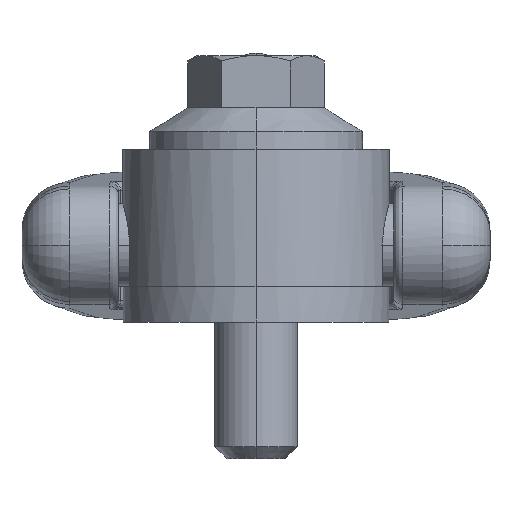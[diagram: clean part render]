
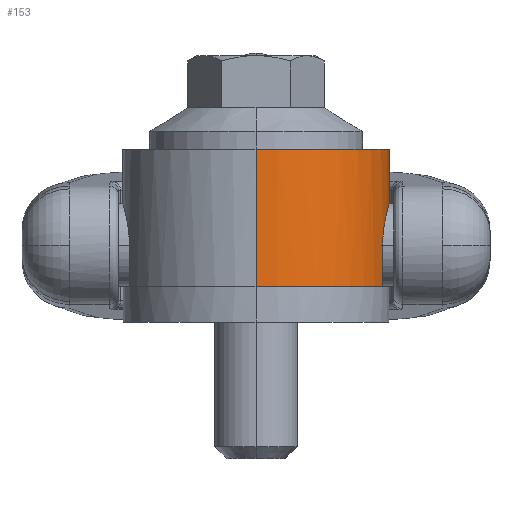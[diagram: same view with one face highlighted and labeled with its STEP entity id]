
A CAD part, top view. The second image highlights one B-rep face of the part: STEP entity #153.
In plain terms, the highlighted cylindrical face has radius 22.5 mm (diameter 45 mm), a partial arc.
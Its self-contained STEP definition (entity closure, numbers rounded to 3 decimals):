
#132 = ORIENTED_EDGE ( 'NONE', *, *, #140, .T. ) ;
#133 = VERTEX_POINT ( 'NONE', #1622 ) ;
#134 = VERTEX_POINT ( 'NONE', #1617 ) ;
#136 = VERTEX_POINT ( 'NONE', #1616 ) ;
#137 = ORIENTED_EDGE ( 'NONE', *, *, #141, .F. ) ;
#138 = VERTEX_POINT ( 'NONE', #1615 ) ;
#139 = EDGE_LOOP ( 'NONE', ( #137, #132, #168, #166, #161, #158, #157, #152 ) ) ;
#140 = EDGE_CURVE ( 'NONE', #134, #169, #1614, .T. ) ;
#141 = EDGE_CURVE ( 'NONE', #134, #138, #1663, .T. ) ;
#151 = VERTEX_POINT ( 'NONE', #1697 ) ;
#152 = ORIENTED_EDGE ( 'NONE', *, *, #963, .F. ) ;
#153 = ADVANCED_FACE ( 'NONE', ( #1696 ), #1695, .T. ) ;
#156 = EDGE_CURVE ( 'NONE', #151, #133, #1690, .T. ) ;
#157 = ORIENTED_EDGE ( 'NONE', *, *, #156, .F. ) ;
#158 = ORIENTED_EDGE ( 'NONE', *, *, #159, .T. ) ;
#159 = EDGE_CURVE ( 'NONE', #163, #133, #1685, .T. ) ;
#160 = EDGE_CURVE ( 'NONE', #136, #163, #1680, .T. ) ;
#161 = ORIENTED_EDGE ( 'NONE', *, *, #160, .T. ) ;
#163 = VERTEX_POINT ( 'NONE', #1702 ) ;
#165 = EDGE_CURVE ( 'NONE', #5817, #136, #1759, .T. ) ;
#166 = ORIENTED_EDGE ( 'NONE', *, *, #165, .T. ) ;
#167 = EDGE_CURVE ( 'NONE', #5817, #169, #1754, .T. ) ;
#168 = ORIENTED_EDGE ( 'NONE', *, *, #167, .F. ) ;
#169 = VERTEX_POINT ( 'NONE', #1748 ) ;
#963 = EDGE_CURVE ( 'NONE', #138, #151, #3284, .T. ) ;
#1612 = VECTOR ( 'NONE', #1664, 1000. ) ;
#1613 = CARTESIAN_POINT ( 'NONE',  ( 0., 45., 22.5 ) ) ;
#1614 = LINE ( 'NONE', #1613, #1612 ) ;
#1615 = CARTESIAN_POINT ( 'NONE',  ( 0., 29.2, -22.5 ) ) ;
#1616 = CARTESIAN_POINT ( 'NONE',  ( 21.383, 13., 7. ) ) ;
#1617 = CARTESIAN_POINT ( 'NONE',  ( 0., 29.2, 22.5 ) ) ;
#1622 = CARTESIAN_POINT ( 'NONE',  ( 21.383, 6., -7. ) ) ;
#1659 = DIRECTION ( 'NONE',  ( 0., 0., 1. ) ) ;
#1660 = DIRECTION ( 'NONE',  ( 0., 1., 0. ) ) ;
#1661 = CARTESIAN_POINT ( 'NONE',  ( 0., 29.2, 0. ) ) ;
#1662 = AXIS2_PLACEMENT_3D ( 'NONE', #1661, #1660, #1659 ) ;
#1663 = CIRCLE ( 'NONE', #1662, 22.5 ) ;
#1664 = DIRECTION ( 'NONE',  ( 0., -1., 0. ) ) ;
#1665 = CARTESIAN_POINT ( 'NONE',  ( 21.876, 17.621, 5.263 ) ) ;
#1666 = CARTESIAN_POINT ( 'NONE',  ( 21.804, 17.268, 5.553 ) ) ;
#1667 = CARTESIAN_POINT ( 'NONE',  ( 21.769, 17.082, 5.691 ) ) ;
#1668 = CARTESIAN_POINT ( 'NONE',  ( 21.667, 16.514, 6.072 ) ) ;
#1669 = CARTESIAN_POINT ( 'NONE',  ( 21.605, 16.113, 6.287 ) ) ;
#1670 = CARTESIAN_POINT ( 'NONE',  ( 21.526, 15.478, 6.551 ) ) ;
#1671 = CARTESIAN_POINT ( 'NONE',  ( 21.501, 15.26, 6.629 ) ) ;
#1672 = CARTESIAN_POINT ( 'NONE',  ( 21.459, 14.819, 6.764 ) ) ;
#1673 = CARTESIAN_POINT ( 'NONE',  ( 21.442, 14.596, 6.819 ) ) ;
#1675 = CARTESIAN_POINT ( 'NONE',  ( 21.399, 13.923, 6.954 ) ) ;
#1676 = CARTESIAN_POINT ( 'NONE',  ( 21.383, 13.465, 7. ) ) ;
#1677 = CARTESIAN_POINT ( 'NONE',  ( 21.383, 13., 7. ) ) ;
#1680 = B_SPLINE_CURVE_WITH_KNOTS ( 'NONE', 3,
 ( #1677, #1676, #1675, #1673, #1672, #1671, #1670, #1669, #1668, #1667, #1666, #1665, #1738, #1737, #1736, #1735, #1734, #1733, #1732, #1731, #1730, #1729, #1728, #1727, #1726, #1725, #1724, #1723, #1722, #1721, #1720, #1719, #1718, #1717, #1716, #1714, #1713, #1712, #1711, #1710, #1709, #1708, #1707, #1706, #1705, #1704 ),
 .UNSPECIFIED., .F., .F.,
 ( 4, 2, 2, 2, 2, 2, 2, 2, 2, 2, 2, 2, 2, 2, 2, 2, 2, 2, 2, 2, 2, 2, 4 ),
 ( 0., 0.001, 0.002, 0.003, 0.004, 0.005, 0.006, 0.007, 0.008, 0.009, 0.01, 0.011, 0.012, 0.014, 0.014, 0.015, 0.016, 0.017, 0.018, 0.019, 0.021, 0.021, 0.022 ),
 .UNSPECIFIED. ) ;
#1682 = DIRECTION ( 'NONE',  ( 0., -1., 0. ) ) ;
#1683 = VECTOR ( 'NONE', #1682, 1000. ) ;
#1684 = CARTESIAN_POINT ( 'NONE',  ( 21.383, 45., -7. ) ) ;
#1685 = LINE ( 'NONE', #1684, #1683 ) ;
#1686 = DIRECTION ( 'NONE',  ( 0., 0., -1. ) ) ;
#1687 = DIRECTION ( 'NONE',  ( 0., -1., 0. ) ) ;
#1688 = CARTESIAN_POINT ( 'NONE',  ( 0., 6., 0. ) ) ;
#1689 = AXIS2_PLACEMENT_3D ( 'NONE', #1688, #1687, #1686 ) ;
#1690 = CIRCLE ( 'NONE', #1689, 22.5 ) ;
#1691 = DIRECTION ( 'NONE',  ( 0., 0., -1. ) ) ;
#1692 = DIRECTION ( 'NONE',  ( 0., -1., 0. ) ) ;
#1693 = CARTESIAN_POINT ( 'NONE',  ( 0., 45., 0. ) ) ;
#1694 = AXIS2_PLACEMENT_3D ( 'NONE', #1693, #1692, #1691 ) ;
#1695 = CYLINDRICAL_SURFACE ( 'NONE', #1694, 22.5 ) ;
#1696 = FACE_OUTER_BOUND ( 'NONE', #139, .T. ) ;
#1697 = CARTESIAN_POINT ( 'NONE',  ( 0., 6., -22.5 ) ) ;
#1702 = CARTESIAN_POINT ( 'NONE',  ( 21.383, 13., -7. ) ) ;
#1704 = CARTESIAN_POINT ( 'NONE',  ( 21.383, 13., -7. ) ) ;
#1705 = CARTESIAN_POINT ( 'NONE',  ( 21.383, 13.233, -7. ) ) ;
#1706 = CARTESIAN_POINT ( 'NONE',  ( 21.387, 13.465, -6.988 ) ) ;
#1707 = CARTESIAN_POINT ( 'NONE',  ( 21.402, 13.926, -6.942 ) ) ;
#1708 = CARTESIAN_POINT ( 'NONE',  ( 21.413, 14.157, -6.908 ) ) ;
#1709 = CARTESIAN_POINT ( 'NONE',  ( 21.457, 14.835, -6.771 ) ) ;
#1710 = CARTESIAN_POINT ( 'NONE',  ( 21.5, 15.271, -6.637 ) ) ;
#1711 = CARTESIAN_POINT ( 'NONE',  ( 21.605, 16.114, -6.286 ) ) ;
#1712 = CARTESIAN_POINT ( 'NONE',  ( 21.669, 16.523, -6.066 ) ) ;
#1713 = CARTESIAN_POINT ( 'NONE',  ( 21.804, 17.279, -5.559 ) ) ;
#1714 = CARTESIAN_POINT ( 'NONE',  ( 21.876, 17.629, -5.271 ) ) ;
#1716 = CARTESIAN_POINT ( 'NONE',  ( 21.986, 18.113, -4.787 ) ) ;
#1717 = CARTESIAN_POINT ( 'NONE',  ( 22.022, 18.267, -4.616 ) ) ;
#1718 = CARTESIAN_POINT ( 'NONE',  ( 22.093, 18.557, -4.263 ) ) ;
#1719 = CARTESIAN_POINT ( 'NONE',  ( 22.128, 18.692, -4.08 ) ) ;
#1720 = CARTESIAN_POINT ( 'NONE',  ( 22.194, 18.945, -3.703 ) ) ;
#1721 = CARTESIAN_POINT ( 'NONE',  ( 22.226, 19.062, -3.508 ) ) ;
#1722 = CARTESIAN_POINT ( 'NONE',  ( 22.286, 19.278, -3.105 ) ) ;
#1723 = CARTESIAN_POINT ( 'NONE',  ( 22.314, 19.377, -2.896 ) ) ;
#1724 = CARTESIAN_POINT ( 'NONE',  ( 22.391, 19.642, -2.258 ) ) ;
#1725 = CARTESIAN_POINT ( 'NONE',  ( 22.431, 19.775, -1.82 ) ) ;
#1726 = CARTESIAN_POINT ( 'NONE',  ( 22.486, 19.954, -0.92 ) ) ;
#1727 = CARTESIAN_POINT ( 'NONE',  ( 22.5, 20., -0.453 ) ) ;
#1728 = CARTESIAN_POINT ( 'NONE',  ( 22.5, 20., 0.467 ) ) ;
#1729 = CARTESIAN_POINT ( 'NONE',  ( 22.486, 19.954, 0.923 ) ) ;
#1730 = CARTESIAN_POINT ( 'NONE',  ( 22.444, 19.818, 1.601 ) ) ;
#1731 = CARTESIAN_POINT ( 'NONE',  ( 22.427, 19.761, 1.827 ) ) ;
#1732 = CARTESIAN_POINT ( 'NONE',  ( 22.387, 19.627, 2.267 ) ) ;
#1733 = CARTESIAN_POINT ( 'NONE',  ( 22.364, 19.549, 2.482 ) ) ;
#1734 = CARTESIAN_POINT ( 'NONE',  ( 22.288, 19.286, 3.113 ) ) ;
#1735 = CARTESIAN_POINT ( 'NONE',  ( 22.227, 19.071, 3.515 ) ) ;
#1736 = CARTESIAN_POINT ( 'NONE',  ( 22.093, 18.559, 4.279 ) ) ;
#1737 = CARTESIAN_POINT ( 'NONE',  ( 22.021, 18.27, 4.63 ) ) ;
#1738 = CARTESIAN_POINT ( 'NONE',  ( 21.913, 17.789, 5.11 ) ) ;
#1748 = CARTESIAN_POINT ( 'NONE',  ( 0., 6., 22.5 ) ) ;
#1749 = DIRECTION ( 'NONE',  ( 0., 0., -1. ) ) ;
#1750 = DIRECTION ( 'NONE',  ( 0., -1., 0. ) ) ;
#1752 = CARTESIAN_POINT ( 'NONE',  ( 0., 6., 0. ) ) ;
#1753 = AXIS2_PLACEMENT_3D ( 'NONE', #1752, #1750, #1749 ) ;
#1754 = CIRCLE ( 'NONE', #1753, 22.5 ) ;
#1755 = DIRECTION ( 'NONE',  ( 0., 1., 0. ) ) ;
#1756 = VECTOR ( 'NONE', #1755, 1000. ) ;
#1757 = CARTESIAN_POINT ( 'NONE',  ( 21.383, 45., 7. ) ) ;
#1759 = LINE ( 'NONE', #1757, #1756 ) ;
#3281 = DIRECTION ( 'NONE',  ( 0., -1., 0. ) ) ;
#3282 = VECTOR ( 'NONE', #3281, 1000. ) ;
#3283 = CARTESIAN_POINT ( 'NONE',  ( 0., 45., -22.5 ) ) ;
#3284 = LINE ( 'NONE', #3283, #3282 ) ;
#4598 = CARTESIAN_POINT ( 'NONE',  ( 21.383, 6., 7. ) ) ;
#5817 = VERTEX_POINT ( 'NONE', #4598 ) ;
